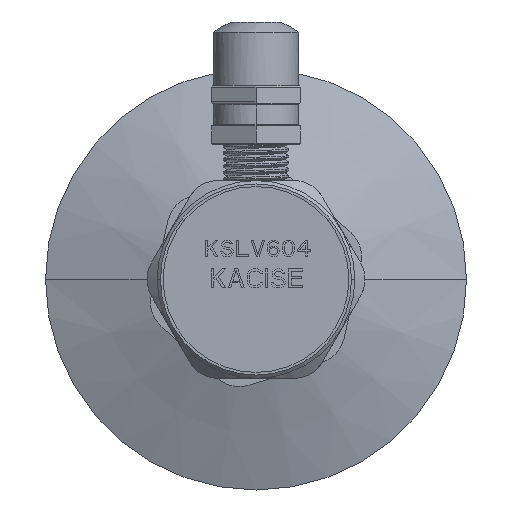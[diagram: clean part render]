
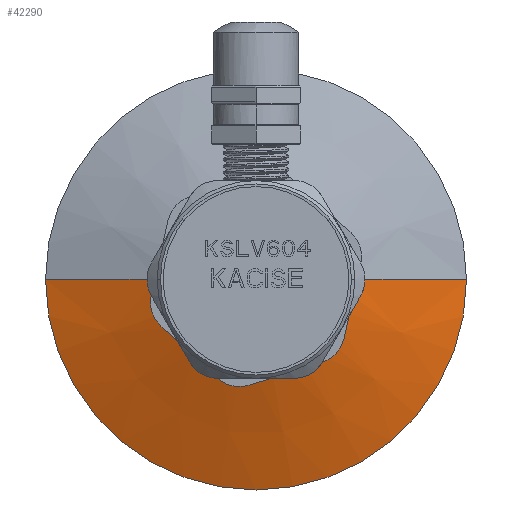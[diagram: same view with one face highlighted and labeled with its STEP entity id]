
A CAD part, front view. The second image highlights one B-rep face of the part: STEP entity #42290.
In plain terms, the highlighted conical face has half-angle 70 degrees and reference radius 23.477 mm.
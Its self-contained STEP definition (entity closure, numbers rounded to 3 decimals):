
#40613=DIRECTION('',(-0.94,0.342,0.));
#40614=VECTOR('',#40613,18.043);
#40615=CARTESIAN_POINT('',(31.955,2.84,0.));
#40616=LINE('',#40615,#40614);
#40622=DIRECTION('',(0.94,0.342,0.));
#40623=VECTOR('',#40622,18.043);
#40624=CARTESIAN_POINT('',(-31.955,2.84,0.));
#40625=LINE('',#40624,#40623);
#40626=CARTESIAN_POINT('',(0.,9.011,0.));
#40627=DIRECTION('',(0.,1.,0.));
#40628=DIRECTION('',(-1.,0.,0.));
#40629=AXIS2_PLACEMENT_3D('',#40626,#40627,#40628);
#40631=CARTESIAN_POINT('',(0.,2.84,0.));
#40632=DIRECTION('',(0.,-1.,0.));
#40633=DIRECTION('',(1.,0.,0.));
#40634=AXIS2_PLACEMENT_3D('',#40631,#40632,#40633);
#42157=CARTESIAN_POINT('',(-31.955,2.84,0.));
#42158=CARTESIAN_POINT('',(-15.,9.011,0.));
#42159=VERTEX_POINT('',#42157);
#42160=VERTEX_POINT('',#42158);
#42161=CARTESIAN_POINT('',(31.955,2.84,0.));
#42162=VERTEX_POINT('',#42161);
#42163=CARTESIAN_POINT('',(15.,9.011,0.));
#42164=VERTEX_POINT('',#42163);
#42277=CARTESIAN_POINT('',(0.,5.926,0.));
#42278=DIRECTION('',(0.,-1.,0.));
#42279=DIRECTION('',(-1.,0.,0.));
#42280=AXIS2_PLACEMENT_3D('',#42277,#42278,#42279);
#42281=CONICAL_SURFACE('',#42280,23.478,70.);
#42282=ORIENTED_EDGE('',*,*,#42266,.T.);
#42284=ORIENTED_EDGE('',*,*,#42283,.T.);
#42285=ORIENTED_EDGE('',*,*,#42270,.F.);
#42287=ORIENTED_EDGE('',*,*,#42286,.T.);
#42288=EDGE_LOOP('',(#42282,#42284,#42285,#42287));
#42289=FACE_OUTER_BOUND('',#42288,.F.);
#42290=ADVANCED_FACE('',(#42289),#42281,.T.);
#40630=CIRCLE('',#40629,15.);
#40635=CIRCLE('',#40634,31.955);
#42266=EDGE_CURVE('',#42159,#42160,#40625,.T.);
#42270=EDGE_CURVE('',#42162,#42164,#40616,.T.);
#42283=EDGE_CURVE('',#42160,#42164,#40630,.T.);
#42286=EDGE_CURVE('',#42162,#42159,#40635,.T.);
